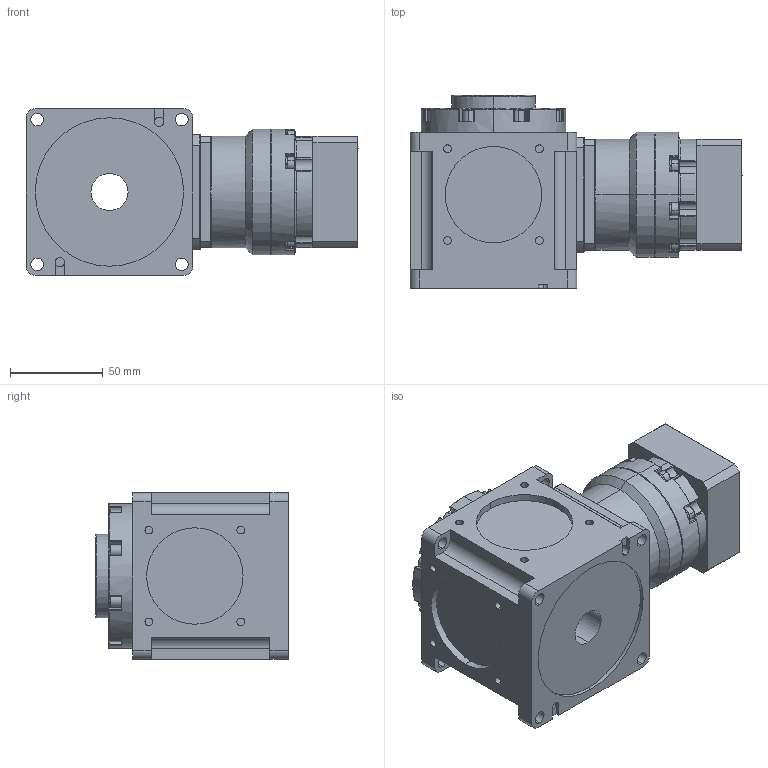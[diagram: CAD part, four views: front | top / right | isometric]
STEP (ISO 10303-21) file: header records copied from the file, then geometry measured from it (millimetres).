
FILE_DESCRIPTION (( 'STEP AP214' ), '1' );
FILE_NAME ('CCW090A-L1(6-20)-FR 14-50-70-M5.STEP', '2025-06-03T02:34:30', ( '微软用户' ), ( '微软中国' ), 'SwSTEP 2.0', 'SolidWorks 2024', '' );
FILE_SCHEMA (( 'AUTOMOTIVE_DESIGN' ));
Length unit declared in the file: millimetre
Products named in the file (3): VRB-060-L1-S2-P1 14-50-70-M5; CCW090A-L1(6-20)-FR 14-50-70-M5; CCW090A-002-FR箱体
Assembly tree (2 placements, depth 2):
  CCW090A-L1(6-20)-FR 14-50-70-M5
    CCW090A-002-FR箱体
    VRB-060-L1-S2-P1 14-50-70-M5
Bounding box: 179 x 104 x 90 mm (x, y, z)
Volume: 876015.2 mm3; surface area: 136680.3 mm2
Topology: 33 solids, 33 shells, 1471 faces, 3595 edges, 2239 vertices
Faces by surface type: plane 568, cylinder 566, cone 226, torus 79, sphere 20, bspline 12
Entity records: 44170 total; most frequent: CARTESIAN_POINT 8611, DIRECTION 7846, ORIENTED_EDGE 7042, EDGE_CURVE 3521, AXIS2_PLACEMENT_3D 3099, VERTEX_POINT 2231, LINE 1648, VECTOR 1648
